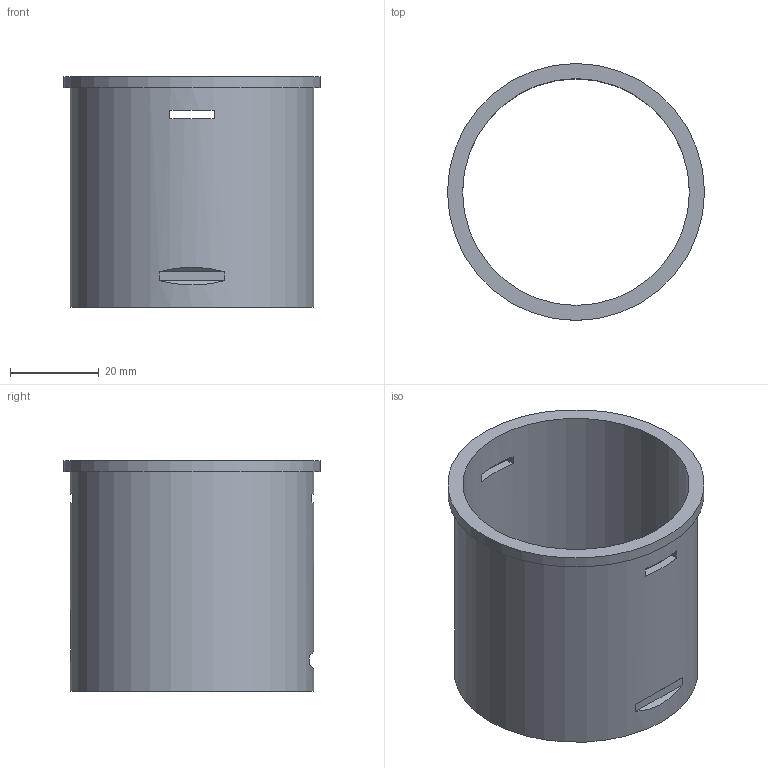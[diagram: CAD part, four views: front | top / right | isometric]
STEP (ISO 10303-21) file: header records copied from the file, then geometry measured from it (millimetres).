
FILE_DESCRIPTION(/* description */ ('Alibre Inc.'),/* implementation_level */ '2;1');
FILE_NAME(/* name */ 'export-7116FC7E-3765-4B78-9515-70EF128F5737',/* time_stamp */ '2026-01-22T09:33:38+00:00',/* author */ (''),/* organization */ (''),/* preprocessor_version */ 'ST-DEVELOPER v17',/* originating_system */ 'Alibre',/* authorisation */ '');
FILE_SCHEMA (('CONFIG_CONTROL_DESIGN'));
Length unit declared in the file: millimetre
Bounding box: 58 x 58 x 52 mm (x, y, z)
Volume: 16944.4 mm3; surface area: 18517.5 mm2
Topology: 1 solids, 1 shells, 23 faces, 57 edges, 38 vertices
Faces by surface type: plane 20, cylinder 3
Full cylindrical faces by diameter (mm): 51.2 x1, 55 x1, 58 x1
Entity records: 761 total; most frequent: CARTESIAN_POINT 115, ORIENTED_EDGE 108, DIRECTION 104, EDGE_CURVE 54, AXIS2_PLACEMENT_3D 47, VERTEX_POINT 38, EDGE_LOOP 36, FACE_BOUND 36
